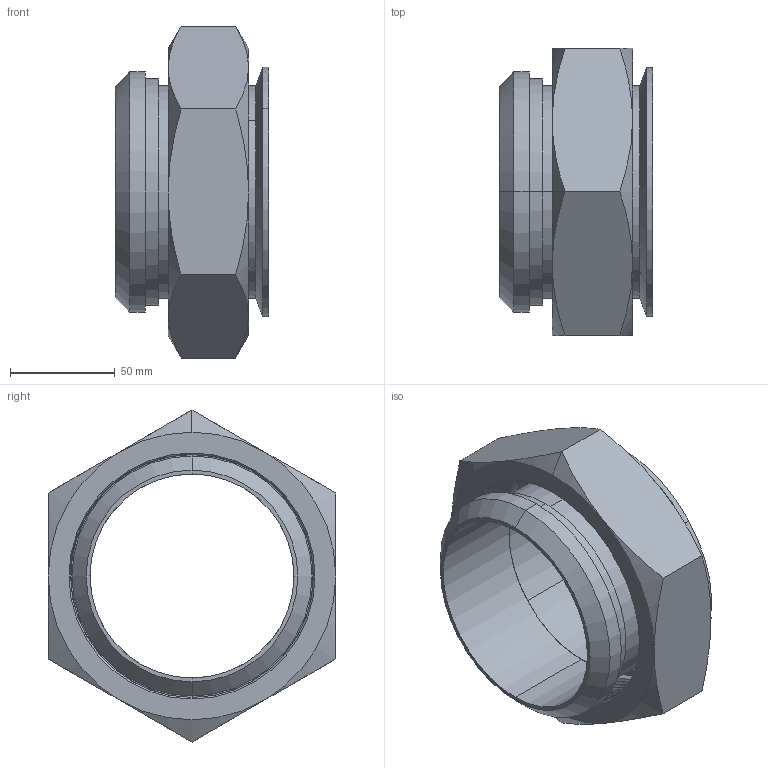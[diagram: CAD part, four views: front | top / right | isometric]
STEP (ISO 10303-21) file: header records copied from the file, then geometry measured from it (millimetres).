
FILE_DESCRIPTION (( 'STEP AP203' ), '1' );
FILE_NAME ('EG17PR4.0.STEP', '2021-10-05T20:28:09', ( '' ), ( '' ), 'SwSTEP 2.0', 'SolidWorks 2021', '' );
FILE_SCHEMA (( 'CONFIG_CONTROL_DESIGN' ));
Length unit declared in the file: inch
Products named in the file (4): 14A4.0; EG14AM74.0; 13H4.0; EG17PR4.0
Assembly tree (3 placements, depth 2):
  EG17PR4.0
    14A4.0
    EG14AM74.0
    13H4.0
Bounding box: 73.03 x 137.16 x 158.38 mm (x, y, z)
Volume: 301469.1 mm3; surface area: 109131 mm2
Topology: 3 solids, 3 shells, 86 faces, 196 edges, 120 vertices
Faces by surface type: cylinder 35, cone 24, plane 18, torus 6, bspline 3
Entity records: 4813 total; most frequent: CARTESIAN_POINT 2563, ORIENTED_EDGE 392, DIRECTION 385, EDGE_CURVE 196, AXIS2_PLACEMENT_3D 162, VERTEX_POINT 120, EDGE_LOOP 96, FACE_OUTER_BOUND 86
